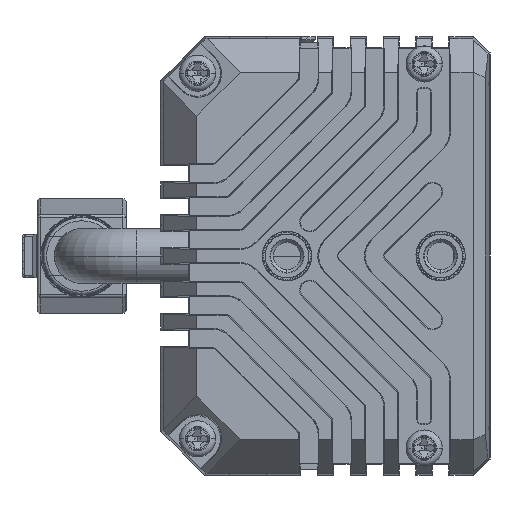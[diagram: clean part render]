
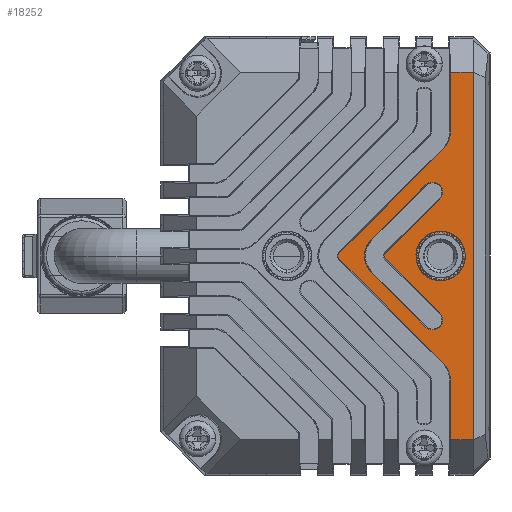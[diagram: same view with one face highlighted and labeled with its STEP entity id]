
A CAD part, left-side view. The second image highlights one B-rep face of the part: STEP entity #18252.
In plain terms, the highlighted planar face has unit normal (-1, 0, 0) as drawn and (0, 0, 1) by its records, which use the part's own axes.
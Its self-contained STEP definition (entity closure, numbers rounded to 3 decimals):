
#11150=CARTESIAN_POINT('',(0.,-1.473,0.));
#11151=DIRECTION('',(0.,0.,1.));
#11152=DIRECTION('',(0.707,0.707,0.));
#11153=AXIS2_PLACEMENT_3D('',#11150,#11151,#11152);
#11159=DIRECTION('',(0.707,-0.707,0.));
#11160=VECTOR('',#11159,13.498);
#11161=CARTESIAN_POINT('',(0.242,-1.231,0.));
#11162=LINE('',#11161,#11160);
#11166=DIRECTION('',(-1.,0.,0.));
#11167=VECTOR('',#11166,5.438);
#11168=CARTESIAN_POINT('',(16.75,-11.407,0.));
#11169=LINE('',#11168,#11167);
#11173=DIRECTION('',(0.,1.,0.));
#11174=VECTOR('',#11173,2.093);
#11175=CARTESIAN_POINT('',(16.75,-13.5,0.));
#11176=LINE('',#11175,#11174);
#11180=DIRECTION('',(1.,0.,0.));
#11181=VECTOR('',#11180,33.5);
#11182=CARTESIAN_POINT('',(-16.75,-13.5,0.));
#11183=LINE('',#11182,#11181);
#11187=DIRECTION('',(0.,1.,0.));
#11188=VECTOR('',#11187,2.093);
#11189=CARTESIAN_POINT('',(-16.75,-13.5,0.));
#11190=LINE('',#11189,#11188);
#11194=DIRECTION('',(1.,0.,0.));
#11195=VECTOR('',#11194,5.438);
#11196=CARTESIAN_POINT('',(-16.75,-11.407,0.));
#11197=LINE('',#11196,#11195);
#11201=DIRECTION('',(0.707,0.707,0.));
#11202=VECTOR('',#11201,13.498);
#11203=CARTESIAN_POINT('',(-9.787,-10.775,0.));
#11204=LINE('',#11203,#11202);
#11208=CARTESIAN_POINT('',(0.,-5.716,0.));
#11209=DIRECTION('',(0.,0.,1.));
#11210=DIRECTION('',(0.707,0.707,0.));
#11211=AXIS2_PLACEMENT_3D('',#11208,#11209,#11210);
#11216=DIRECTION('',(0.707,-0.707,0.));
#11217=VECTOR('',#11216,6.997);
#11218=CARTESIAN_POINT('',(0.242,-5.473,0.));
#11219=LINE('',#11218,#11217);
#11223=CARTESIAN_POINT('',(5.831,-9.78,0.));
#11224=DIRECTION('',(0.,0.,1.));
#11225=DIRECTION('',(-0.707,-0.707,0.));
#11226=AXIS2_PLACEMENT_3D('',#11223,#11224,#11225);
#11231=DIRECTION('',(-0.707,0.707,0.));
#11232=VECTOR('',#11231,6.997);
#11233=CARTESIAN_POINT('',(6.473,-9.138,0.));
#11234=LINE('',#11233,#11232);
#11238=DIRECTION('',(-0.707,-0.707,0.));
#11239=VECTOR('',#11238,6.997);
#11240=CARTESIAN_POINT('',(-1.525,-4.191,0.));
#11241=LINE('',#11240,#11239);
#11245=CARTESIAN_POINT('',(-5.831,-9.78,0.));
#11246=DIRECTION('',(0.,0.,1.));
#11247=DIRECTION('',(-0.707,0.707,0.));
#11248=AXIS2_PLACEMENT_3D('',#11245,#11246,#11247);
#11253=DIRECTION('',(0.707,0.707,0.));
#11254=VECTOR('',#11253,6.997);
#11255=CARTESIAN_POINT('',(-5.19,-10.421,0.));
#11256=LINE('',#11255,#11254);
#11923=CARTESIAN_POINT('',(0.,-10.5,0.));
#11924=DIRECTION('',(0.,0.,1.));
#11925=DIRECTION('',(1.,0.,0.));
#11926=AXIS2_PLACEMENT_3D('',#11923,#11924,#11925);
#11931=CARTESIAN_POINT('',(0.,-10.5,0.));
#11932=DIRECTION('',(0.,0.,1.));
#11933=DIRECTION('',(-1.,0.,0.));
#11934=AXIS2_PLACEMENT_3D('',#11931,#11932,#11933);
#11961=CARTESIAN_POINT('',(-11.312,-9.25,0.));
#11962=DIRECTION('',(0.,0.,-1.));
#11963=DIRECTION('',(0.707,-0.707,0.));
#11964=AXIS2_PLACEMENT_3D('',#11961,#11962,#11963);
#15292=CARTESIAN_POINT('',(11.312,-9.25,0.));
#15293=DIRECTION('',(0.,0.,-1.));
#15294=DIRECTION('',(0.,-1.,0.));
#15295=AXIS2_PLACEMENT_3D('',#15292,#15293,#15294);
#16961=CARTESIAN_POINT('',(0.,-5.716,0.));
#16962=DIRECTION('',(0.,0.,-1.));
#16963=DIRECTION('',(-0.707,0.707,0.));
#16964=AXIS2_PLACEMENT_3D('',#16961,#16962,#16963);
#17117=CARTESIAN_POINT('',(-16.75,-13.5,0.));
#17118=CARTESIAN_POINT('',(16.75,-13.5,0.));
#17119=VERTEX_POINT('',#17117);
#17120=VERTEX_POINT('',#17118);
#17133=CARTESIAN_POINT('',(2.,-10.5,0.));
#17134=CARTESIAN_POINT('',(-2.,-10.5,0.));
#17135=VERTEX_POINT('',#17133);
#17136=VERTEX_POINT('',#17134);
#17217=CARTESIAN_POINT('',(16.75,-11.407,0.));
#17218=VERTEX_POINT('',#17217);
#17227=CARTESIAN_POINT('',(-6.473,-9.138,0.));
#17229=VERTEX_POINT('',#17227);
#17233=CARTESIAN_POINT('',(-5.19,-10.421,0.));
#17234=VERTEX_POINT('',#17233);
#17239=CARTESIAN_POINT('',(6.473,-9.138,0.));
#17240=VERTEX_POINT('',#17239);
#17241=CARTESIAN_POINT('',(5.19,-10.421,0.));
#17242=VERTEX_POINT('',#17241);
#17247=CARTESIAN_POINT('',(11.312,-11.407,0.));
#17248=VERTEX_POINT('',#17247);
#17249=CARTESIAN_POINT('',(9.787,-10.775,0.));
#17250=VERTEX_POINT('',#17249);
#17311=CARTESIAN_POINT('',(-9.787,-10.775,0.));
#17312=VERTEX_POINT('',#17311);
#17313=CARTESIAN_POINT('',(-11.312,-11.407,0.));
#17314=VERTEX_POINT('',#17313);
#17319=CARTESIAN_POINT('',(-1.525,-4.191,0.));
#17320=VERTEX_POINT('',#17319);
#17321=CARTESIAN_POINT('',(1.525,-4.191,0.));
#17322=VERTEX_POINT('',#17321);
#17337=CARTESIAN_POINT('',(-16.75,-11.407,0.));
#17338=VERTEX_POINT('',#17337);
#17339=CARTESIAN_POINT('',(0.242,-5.473,0.));
#17340=CARTESIAN_POINT('',(-0.242,-5.473,0.));
#17341=VERTEX_POINT('',#17339);
#17342=VERTEX_POINT('',#17340);
#17347=CARTESIAN_POINT('',(0.242,-1.231,0.));
#17348=CARTESIAN_POINT('',(-0.242,-1.231,0.));
#17349=VERTEX_POINT('',#17347);
#17350=VERTEX_POINT('',#17348);
#18201=CARTESIAN_POINT('',(0.,0.,0.));
#18202=DIRECTION('',(0.,0.,1.));
#18203=DIRECTION('',(1.,0.,0.));
#18204=AXIS2_PLACEMENT_3D('',#18201,#18202,#18203);
#18205=PLANE('',#18204);
#18207=ORIENTED_EDGE('',*,*,#18206,.F.);
#18209=ORIENTED_EDGE('',*,*,#18208,.T.);
#18211=ORIENTED_EDGE('',*,*,#18210,.F.);
#18213=ORIENTED_EDGE('',*,*,#18212,.F.);
#18215=ORIENTED_EDGE('',*,*,#18214,.F.);
#18217=ORIENTED_EDGE('',*,*,#18216,.F.);
#18219=ORIENTED_EDGE('',*,*,#18218,.T.);
#18221=ORIENTED_EDGE('',*,*,#18220,.T.);
#18223=ORIENTED_EDGE('',*,*,#18222,.F.);
#18225=ORIENTED_EDGE('',*,*,#18224,.T.);
#18226=EDGE_LOOP('',(#18207,#18209,#18211,#18213,#18215,#18217,#18219,#18221,
#18223,#18225));
#18227=FACE_OUTER_BOUND('',#18226,.F.);
#18229=ORIENTED_EDGE('',*,*,#18228,.F.);
#18231=ORIENTED_EDGE('',*,*,#18230,.T.);
#18233=ORIENTED_EDGE('',*,*,#18232,.T.);
#18235=ORIENTED_EDGE('',*,*,#18234,.T.);
#18237=ORIENTED_EDGE('',*,*,#18236,.F.);
#18239=ORIENTED_EDGE('',*,*,#18238,.T.);
#18241=ORIENTED_EDGE('',*,*,#18240,.T.);
#18243=ORIENTED_EDGE('',*,*,#18242,.T.);
#18244=EDGE_LOOP('',(#18229,#18231,#18233,#18235,#18237,#18239,#18241,#18243));
#18245=FACE_BOUND('',#18244,.F.);
#18247=ORIENTED_EDGE('',*,*,#18246,.T.);
#18249=ORIENTED_EDGE('',*,*,#18248,.T.);
#18250=EDGE_LOOP('',(#18247,#18249));
#18251=FACE_BOUND('',#18250,.F.);
#11154=CIRCLE('',#11153,0.343);
#11212=CIRCLE('',#11211,0.343);
#11227=CIRCLE('',#11226,0.907);
#11249=CIRCLE('',#11248,0.907);
#11927=CIRCLE('',#11926,2.);
#11935=CIRCLE('',#11934,2.);
#11965=CIRCLE('',#11964,2.157);
#15296=CIRCLE('',#15295,2.157);
#16965=CIRCLE('',#16964,2.157);
#18206=EDGE_CURVE('',#17349,#17350,#11154,.T.);
#18208=EDGE_CURVE('',#17349,#17250,#11162,.T.);
#18210=EDGE_CURVE('',#17248,#17250,#15296,.T.);
#18212=EDGE_CURVE('',#17218,#17248,#11169,.T.);
#18214=EDGE_CURVE('',#17120,#17218,#11176,.T.);
#18216=EDGE_CURVE('',#17119,#17120,#11183,.T.);
#18218=EDGE_CURVE('',#17119,#17338,#11190,.T.);
#18220=EDGE_CURVE('',#17338,#17314,#11197,.T.);
#18222=EDGE_CURVE('',#17312,#17314,#11965,.T.);
#18224=EDGE_CURVE('',#17312,#17350,#11204,.T.);
#18228=EDGE_CURVE('',#17341,#17342,#11212,.T.);
#18230=EDGE_CURVE('',#17341,#17242,#11219,.T.);
#18232=EDGE_CURVE('',#17242,#17240,#11227,.T.);
#18234=EDGE_CURVE('',#17240,#17322,#11234,.T.);
#18236=EDGE_CURVE('',#17320,#17322,#16965,.T.);
#18238=EDGE_CURVE('',#17320,#17229,#11241,.T.);
#18240=EDGE_CURVE('',#17229,#17234,#11249,.T.);
#18242=EDGE_CURVE('',#17234,#17342,#11256,.T.);
#18246=EDGE_CURVE('',#17135,#17136,#11927,.T.);
#18248=EDGE_CURVE('',#17136,#17135,#11935,.T.);
#18252=ADVANCED_FACE('',(#18227,#18245,#18251),#18205,.T.);
